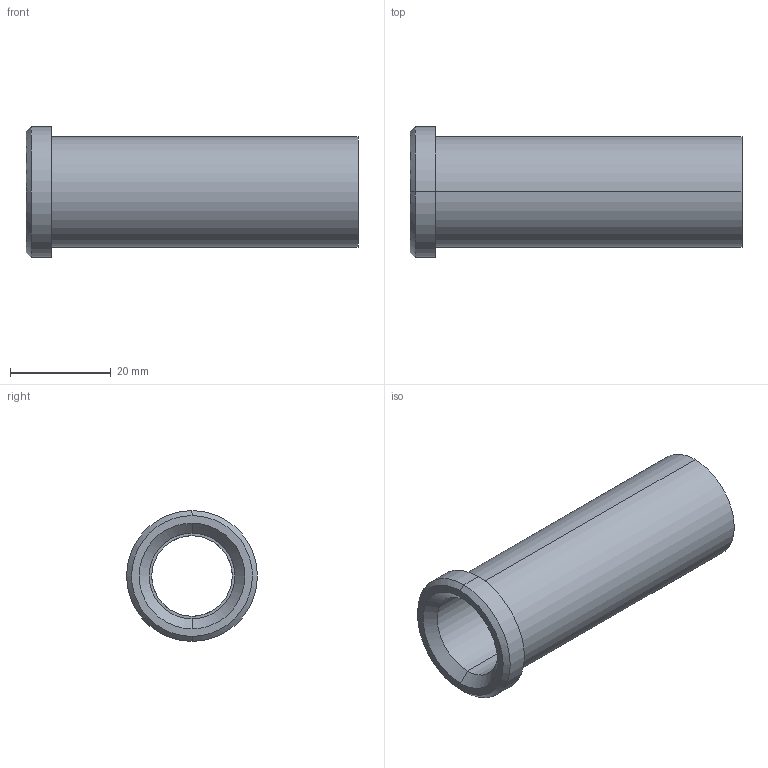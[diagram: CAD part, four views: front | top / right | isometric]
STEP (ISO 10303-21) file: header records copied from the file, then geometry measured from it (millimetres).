
FILE_DESCRIPTION(('CATIA V5 STEP Exchange'),'2;1');
FILE_NAME('C:\Users\Utente\Desktop\IO LAVORO\3D X SITO CF\X SITO\PLASTICA\353\353-16X66.stp','2021-05-04T18:16:20+00:00',('none'),('none'),'CATIA Version 5 Release 20 GA (IN-10)','CATIA V5 STEP AP203','none');
FILE_SCHEMA(('CONFIG_CONTROL_DESIGN'));
Length unit declared in the file: millimetre
Products named in the file (1): 353-16X66
Bounding box: 66 x 26 x 26 mm (x, y, z)
Volume: 11525.4 mm3; surface area: 8580.9 mm2
Topology: 1 solids, 1 shells, 18 faces, 58 edges, 44 vertices
Faces by surface type: cylinder 8, plane 4, cone 4, torus 2
Entity records: 840 total; most frequent: CARTESIAN_POINT 289, ORIENTED_EDGE 116, DIRECTION 82, EDGE_CURVE 58, AXIS2_PLACEMENT_3D 53, VERTEX_POINT 44, CIRCLE 34, EDGE_LOOP 22
